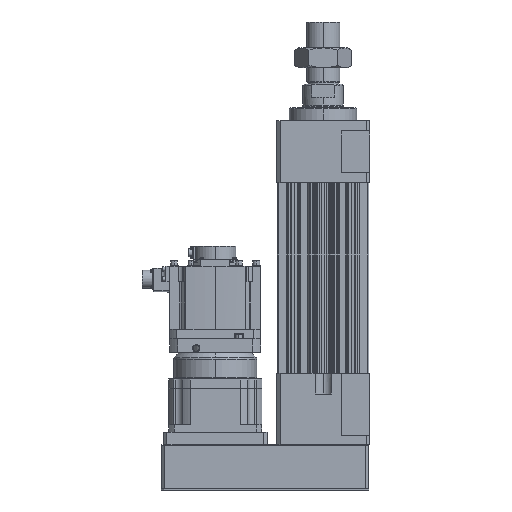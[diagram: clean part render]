
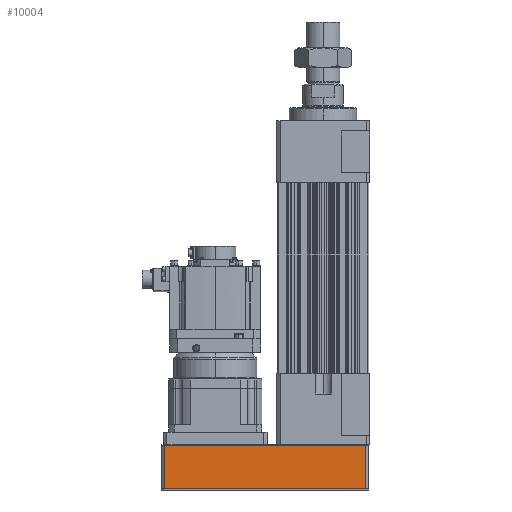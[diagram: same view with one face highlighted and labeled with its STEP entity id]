
A CAD part, left-side view. The second image highlights one B-rep face of the part: STEP entity #10004.
In plain terms, the highlighted planar face has unit normal (-1, 0, 0).
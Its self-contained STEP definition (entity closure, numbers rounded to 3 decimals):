
#595 = AXIS2_PLACEMENT_3D ( 'NONE', #7112, #32009, #11253 ) ;
#791 = LINE ( 'NONE', #43497, #51476 ) ;
#855 = DIRECTION ( 'NONE',  ( 0., 0., 1. ) ) ;
#1563 = DIRECTION ( 'NONE',  ( 0., 1., 0. ) ) ;
#3332 = PLANE ( 'NONE',  #595 ) ;
#5856 = VECTOR ( 'NONE', #855, 1000. ) ;
#7112 = CARTESIAN_POINT ( 'NONE',  ( -88., -82., -222. ) ) ;
#8329 = ORIENTED_EDGE ( 'NONE', *, *, #14676, .F. ) ;
#9025 = VECTOR ( 'NONE', #1563, 1000. ) ;
#9479 = CARTESIAN_POINT ( 'NONE',  ( -88., 306., -222. ) ) ;
#10004 = ADVANCED_FACE ( 'NONE', ( #12548 ), #3332, .F. ) ;
#11139 = EDGE_LOOP ( 'NONE', ( #8329, #28710, #44168, #13017 ) ) ;
#11253 = DIRECTION ( 'NONE',  ( 0., 0., -1. ) ) ;
#12182 = VERTEX_POINT ( 'NONE', #12973 ) ;
#12548 = FACE_OUTER_BOUND ( 'NONE', #11139, .T. ) ;
#12973 = CARTESIAN_POINT ( 'NONE',  ( -88., 306., -138.5 ) ) ;
#13017 = ORIENTED_EDGE ( 'NONE', *, *, #51852, .T. ) ;
#14676 = EDGE_CURVE ( 'NONE', #28547, #12182, #44397, .T. ) ;
#19050 = CARTESIAN_POINT ( 'NONE',  ( -88., 306., -221.5 ) ) ;
#19732 = CARTESIAN_POINT ( 'NONE',  ( -88., -82., -138.5 ) ) ;
#23241 = CARTESIAN_POINT ( 'NONE',  ( -88., -82., -221.5 ) ) ;
#23250 = DIRECTION ( 'NONE',  ( 0., -1., 0. ) ) ;
#23778 = LINE ( 'NONE', #33817, #9025 ) ;
#28547 = VERTEX_POINT ( 'NONE', #19050 ) ;
#28710 = ORIENTED_EDGE ( 'NONE', *, *, #39576, .T. ) ;
#31511 = VECTOR ( 'NONE', #38054, 1000. ) ;
#32009 = DIRECTION ( 'NONE',  ( 1., 0., 0. ) ) ;
#33817 = CARTESIAN_POINT ( 'NONE',  ( -88., -82., -138.5 ) ) ;
#37218 = LINE ( 'NONE', #38090, #5856 ) ;
#38054 = DIRECTION ( 'NONE',  ( 0., 0., 1. ) ) ;
#38090 = CARTESIAN_POINT ( 'NONE',  ( -88., -82., -222. ) ) ;
#39576 = EDGE_CURVE ( 'NONE', #28547, #52758, #791, .T. ) ;
#42515 = VERTEX_POINT ( 'NONE', #19732 ) ;
#43497 = CARTESIAN_POINT ( 'NONE',  ( -88., -82., -221.5 ) ) ;
#44168 = ORIENTED_EDGE ( 'NONE', *, *, #50591, .T. ) ;
#44397 = LINE ( 'NONE', #9479, #31511 ) ;
#50591 = EDGE_CURVE ( 'NONE', #52758, #42515, #37218, .T. ) ;
#51476 = VECTOR ( 'NONE', #23250, 1000. ) ;
#51852 = EDGE_CURVE ( 'NONE', #42515, #12182, #23778, .T. ) ;
#52758 = VERTEX_POINT ( 'NONE', #23241 ) ;
